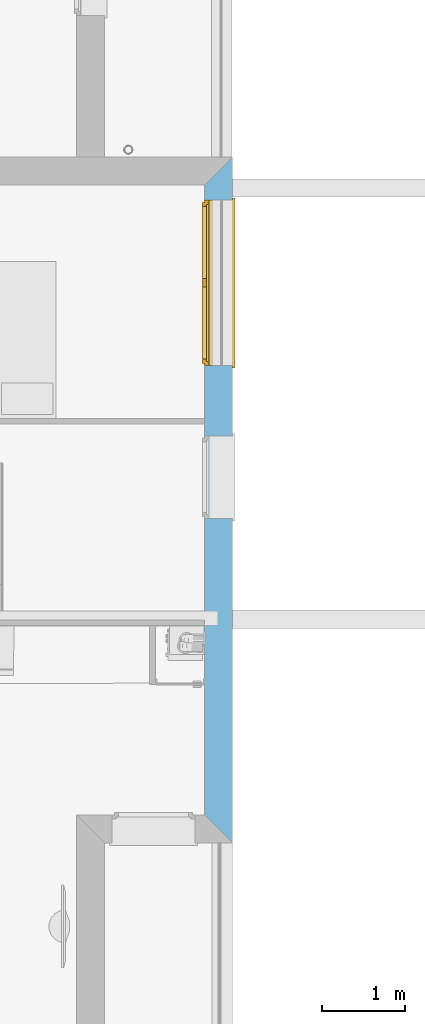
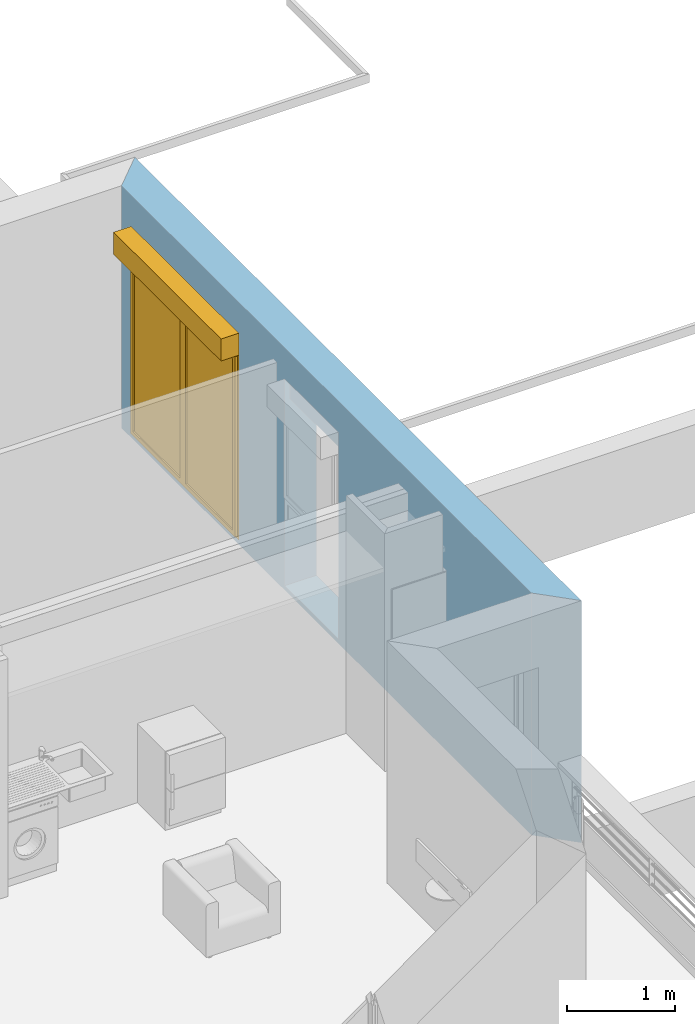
# One storey, part 41 of 171: 1 window, 2 openings, plus 1 element that does not belong to this part.
"""IFC2X3 building model written with IfcOpenShell, lengths in millimetres."""

from ifc_helpers import new_model, entity, si_unit, converted_unit, derived_unit, money_unit, direction, frame, origin_with_axes, place, context, subcontext, project, spatial, polyline, outline, extrude, open_shell, faceted_brep, surface_model, source, transform, mapped, material, layer, layer_set, layer_usage, type_object, element, fill, save


model = new_model("IFC2X3")

# Units and contexts
model_context = context("Model", 3, precision=0.01, world=origin_with_axes(), true_north=direction((0.0, 1.0)))
body_context = subcontext(model_context, "Body", "Model", "MODEL_VIEW")
ifc_project = project(units=[si_unit("LENGTHUNIT", "METRE", prefix="MILLI"), si_unit("AREAUNIT", "SQUARE_METRE"), si_unit("VOLUMEUNIT", "CUBIC_METRE"), converted_unit("PLANEANGLEUNIT", "DEGREE", entity("IfcPlaneAngleMeasure", 0.0174532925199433), si_unit("PLANEANGLEUNIT", "RADIAN"), dimensions=[0, 0, 0, 0, 0, 0, 0]), money_unit("USD"), converted_unit("TIMEUNIT", "Year", entity("IfcTimeMeasure", 31557600.0), si_unit("TIMEUNIT", "SECOND"), dimensions=[0, 0, 1, 0, 0, 0, 0]), si_unit("MASSUNIT", "GRAM", prefix="KILO"), si_unit("THERMODYNAMICTEMPERATUREUNIT", "DEGREE_CELSIUS"), si_unit("LUMINOUSINTENSITYUNIT", "LUMEN"), si_unit("ENERGYUNIT", "JOULE", prefix="MEGA"), derived_unit("THERMALCONDUCTANCEUNIT", [(si_unit("POWERUNIT", "WATT"), 1), (si_unit("LENGTHUNIT", "METRE"), -1), (si_unit("THERMODYNAMICTEMPERATUREUNIT", "KELVIN"), -1)]), derived_unit("SPECIFICHEATCAPACITYUNIT", [(si_unit("ENERGYUNIT", "JOULE"), 1), (si_unit("MASSUNIT", "GRAM", prefix="KILO"), -1), (si_unit("THERMODYNAMICTEMPERATUREUNIT", "KELVIN"), -1)]), derived_unit("MASSDENSITYUNIT", [(si_unit("MASSUNIT", "GRAM", prefix="KILO"), 1), (si_unit("VOLUMEUNIT", "CUBIC_METRE"), -1)])], contexts=[model_context])

# Site, building, storey
site_placement = place(None, origin_with_axes())
site = spatial("IfcSite", under=ifc_project, at=site_placement, Name="Site", CompositionType="ELEMENT")
building_placement = place(site_placement, origin_with_axes())
building = spatial("IfcBuilding", under=site, at=building_placement, Name="Bâtiment", CompositionType="ELEMENT")
storey_placement = place(building_placement, frame((0.0, 0.0, 3000.0), z_axis=(0.0, 0.0, 1.0), x_axis=(1.0, 0.0, 0.0)))
storey = spatial("IfcBuildingStorey", under=building, at=storey_placement, Name="rdc", CompositionType="ELEMENT", Elevation=3000.0)

# Wall, openings, window
ifc_material_1 = material(Name="Parpaing 312445824")
ifc_layer_1 = layer(ifc_material_1, 180.0, ventilated="UNKNOWN")
ifc_material_2 = material(Name="Isolant styromousse 301821074")
ifc_layer_2 = layer(ifc_material_2, 160.0, ventilated="UNKNOWN")
ifc_layer_set = layer_set([ifc_layer_1, ifc_layer_2], Name="isol int 18+16 0018356637")
ifc_layer_usage = layer_usage(ifc_layer_set, "AXIS2", "POSITIVE", 0.0)
wall_type = type_object("IfcWallType", Name="isol int 18+16 0018356637 340", PredefinedType="NOTDEFINED")
wall_placement = place(storey_placement, frame((2234356.673459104, -655041.4677782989, 0.0), z_axis=(0.0, 0.0, 1.0), x_axis=(-5.666330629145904e-06, 0.9999999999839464, 0.0)))
wall = element("IfcWallStandardCase", 1, at=wall_placement, inside=storey, type_object=wall_type, material=ifc_layer_usage, Name="Mur-144", context=body_context, shape_type="SweptSolid", body=[
    extrude(outline(polyline([(0.0, 0.0), (8303.026472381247, 0.0), (7963.028399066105, 340.0000000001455), (340.0019265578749, 340.0000000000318), (0.0, 0.0)])), origin_with_axes(), (0.0, 0.0, 1.0), 2750.0),
])
opening_1_placement = place(wall_placement, frame((6781.330882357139, 1.13686837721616e-10, 49.99999999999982), z_axis=(0.0, 0.0, 1.0), x_axis=(1.0, 0.0, 0.0)))
opening_1 = element("IfcOpeningElement", 2, at=opening_1_placement, cuts=wall, Name="Fen-207", context=body_context, shape_type="Brep", body=[
    faceted_brep([(1000.0, 280.0000000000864, 2100.0), (-999.9999999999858, 280.0000000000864, 2100.0), (-999.9999999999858, -1.047047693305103, 2100.0), (999.9999999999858, -1.047047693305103, 2100.0), (1000.0, 280.0000000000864, 2350.0), (-999.9999999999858, 280.0000000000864, 2350.0), (-1000.0, 290.0000000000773, 2100.0), (-999.9999999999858, 290.0000000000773, 0.0), (-999.9999999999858, -1.047047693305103, 0.0), (999.9999999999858, -1.047047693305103, 0.0), (1000.0, 289.9999999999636, 2100.0), (1000.0, 289.9999999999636, 0.0), (1000.0, 341.0470476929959, 2100.0), (1000.0, 529.9999999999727, 2100.0), (1000.0, 529.9999999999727, 2350.0), (-1000.0, 529.9999999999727, 2350.0), (-1000.0, 529.9999999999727, 2100.0), (-999.9999999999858, 341.0470476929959, 2100.0), (-999.9999999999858, 341.0470476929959, 0.0), (999.9999999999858, 341.0470476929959, 0.0)], [[[0, 1, 2, 3]], [[1, 0, 4, 5]], [[1, 6, 7, 8, 2]], [[2, 8, 9, 3]], [[10, 0, 3, 9, 11]], [[0, 10, 12, 13, 14, 4]], [[4, 14, 15, 5]], [[6, 1, 5, 15, 16, 17]], [[6, 17, 18, 7]], [[11, 9, 8, 7, 18, 19]], [[12, 10, 11, 19]], [[12, 17, 16, 13]], [[14, 13, 16, 15]], [[17, 12, 19, 18]]]),
])
opening_2_placement = place(wall_placement, frame((4427.837846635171, 1.13686837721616e-10, 49.99999999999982), z_axis=(0.0, 0.0, 1.0), x_axis=(1.0, 0.0, 0.0)))
element("IfcOpeningElement", 3, at=opening_2_placement, cuts=wall, Name="Fen-133", context=body_context, shape_type="Brep", body=[
    faceted_brep([(499.9999999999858, 290.0000000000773, 2100.0), (499.9999999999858, 279.9999999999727, 2100.0), (499.9999999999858, -1.047047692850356, 2100.0), (499.9999999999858, -1.047047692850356, 0.0), (500.0, 290.0000000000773, 0.0), (499.9999999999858, 341.0470476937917, 2100.0), (499.9999999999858, 529.9999999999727, 2100.0), (499.9999999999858, 529.9999999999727, 2350.0), (499.9999999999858, 279.9999999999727, 2350.0), (-500.0, 279.9999999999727, 2100.0), (-500.0, -1.047047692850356, 2100.0), (-500.0, -1.047047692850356, 0.0), (-499.9999999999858, 289.9999999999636, 0.0), (-500.0, 341.0470476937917, 0.0), (499.9999999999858, 341.0470476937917, 0.0), (-500.0, 341.0470476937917, 2100.0), (-500.0000000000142, 529.9999999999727, 2100.0), (-500.0000000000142, 529.9999999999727, 2350.0), (-500.0, 279.9999999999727, 2350.0), (-500.0, 289.9999999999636, 2100.0)], [[[0, 1, 2, 3, 4]], [[1, 0, 5, 6, 7, 8]], [[1, 9, 10, 2]], [[10, 11, 3, 2]], [[4, 3, 11, 12, 13, 14]], [[5, 0, 4, 14]], [[5, 15, 16, 6]], [[7, 6, 16, 17]], [[8, 7, 17, 18]], [[9, 1, 8, 18]], [[9, 19, 12, 11, 10]], [[19, 15, 13, 12]], [[15, 5, 14, 13]], [[19, 9, 18, 17, 16, 15]]]),
])
window_style = type_object("IfcWindowStyle", Name="Fenêtre châssis double variable 27", ConstructionType="NOTDEFINED", OperationType="DOUBLE_PANEL_VERTICAL", ParameterTakesPrecedence=False, Sizeable=False)
shared_shape = source(origin_with_axes(), body_context, "Body", "SurfaceModel", [
    surface_model("IfcShellBasedSurfaceModel", [(1000.0, -51.00000000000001, 40.00000000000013), (1000.0, -51.00000000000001, 50.00000000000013), (-1000.0, -51.00000000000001, 50.0), (-1000.0, -51.00000000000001, 40.0), (1030.0, -369.9999999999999, 28.96551724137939), (1030.0, -339.9999999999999, 30.00324289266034), (1000.0, -339.9999999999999, 30.00324289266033), (-1000.0, -339.9999999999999, 30.00324289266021), (-1030.0, -339.9999999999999, 30.00324289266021), (-1030.0, -369.9999999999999, 28.96551724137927), (1030.0, -369.9999999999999, 8.965517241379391), (-1030.0, -369.9999999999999, 8.965517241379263), (1030.0, -359.9999999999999, 18.96551724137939), (-1030.0, -359.9999999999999, 18.96551724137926)], [open_shell([[[0, 1, 2, 3]], [[4, 5, 6, 0, 3, 7, 8, 9]], [[10, 4, 9, 11]], [[12, 10, 11, 13]]])]),
    faceted_brep([(-1000.0, -60.00000000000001, 2350.0), (-997.0, -60.00000000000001, 2350.0), (-997.0, 190.0, 2350.0), (-1000.0, 190.0, 2350.0), (-1000.0, -60.00000000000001, 2100.0), (-997.0, -60.00000000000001, 2100.0), (-997.0, 190.0, 2100.0), (-1000.0, 190.0, 2100.0)], [[[0, 1, 2, 3]], [[4, 5, 1, 0]], [[1, 5, 6, 2]], [[3, 2, 6, 7]], [[0, 3, 7, 4]], [[7, 6, 5, 4]]]),
    faceted_brep([(997.0000000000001, -59.99999999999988, 2350.0), (1000.0, -59.99999999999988, 2350.0), (1000.0, 190.0000000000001, 2350.0), (997.0000000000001, 190.0000000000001, 2350.0), (997.0000000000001, -59.99999999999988, 2100.0), (1000.0, -59.99999999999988, 2100.0), (1000.0, 190.0000000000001, 2100.0), (997.0000000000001, 190.0000000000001, 2100.0)], [[[0, 1, 2, 3]], [[4, 5, 1, 0]], [[1, 5, 6, 2]], [[3, 2, 6, 7]], [[0, 3, 7, 4]], [[7, 6, 5, 4]]]),
    faceted_brep([(-997.0, -60.0, 2100.0), (997.0, -59.99999999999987, 2100.0), (997.0, -59.99999999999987, 2350.0), (-997.0, -60.0, 2350.0), (-997.0, -56.99999999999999, 2100.0), (997.0, -56.99999999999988, 2100.0), (997.0, -56.99999999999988, 2347.0), (997.0, 187.0000000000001, 2347.0), (997.0, 187.0000000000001, 2103.0), (997.0, -37.99999999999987, 2103.0), (997.0, -37.99999999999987, 2100.0), (997.0, 190.0000000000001, 2100.0), (997.0, 190.0000000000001, 2350.0), (-997.0, 190.0, 2350.0), (-997.0, 190.0, 2100.0), (-997.0, -37.99999999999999, 2100.0), (-997.0, -37.99999999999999, 2103.0), (-997.0, 187.0, 2103.0), (-997.0, 187.0, 2347.0), (-997.0, -56.99999999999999, 2347.0)], [[[0, 1, 2, 3]], [[4, 5, 1, 0]], [[1, 5, 6, 7, 8, 9, 10, 11, 12, 2]], [[3, 2, 12, 13]], [[0, 3, 13, 14, 15, 16, 17, 18, 19, 4]], [[19, 6, 5, 4]], [[18, 7, 6, 19]], [[17, 8, 7, 18]], [[16, 9, 8, 17]], [[15, 10, 9, 16]], [[14, 11, 10, 15]], [[13, 12, 11, 14]]]),
    faceted_brep([(-994.0, -40.37442957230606, 2206.419644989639), (-994.0, -41.99999999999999, 2225.0), (-994.0, -40.37442957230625, 2243.580355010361), (-994.0, -35.54711042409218, 2261.596155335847), (-994.0, -27.66471820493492, 2278.5), (-994.0, -16.96675541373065, 2293.77827423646), (-994.0, -3.778274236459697, 2306.966755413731), (-994.0, 11.5, 2317.664718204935), (-994.0, 28.40384466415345, 2325.547110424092), (-994.0, 46.41964498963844, 2330.374429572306), (-994.0, 64.99999999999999, 2332.0), (-994.0, 83.58035501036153, 2330.374429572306), (-994.0, 101.5961553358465, 2325.547110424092), (-994.0, 118.5, 2317.664718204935), (-994.0, 133.7782742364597, 2306.966755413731), (-994.0, 146.9667554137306, 2293.77827423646), (-994.0, 157.6647182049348, 2278.5), (-994.0, 165.5471104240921, 2261.596155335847), (-994.0, 170.3744295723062, 2243.580355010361), (-994.0, 171.9999999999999, 2225.0), (-994.0, 170.3744295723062, 2206.419644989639), (-994.0, 165.5471104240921, 2188.403844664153), (-994.0, 157.6647182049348, 2171.5), (-994.0, 146.9667554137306, 2156.22172576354), (-994.0, 133.7782742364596, 2143.03324458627), (-994.0, 118.4999999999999, 2132.335281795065), (-994.0, 101.5961553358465, 2124.452889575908), (-994.0, 83.58035501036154, 2119.625570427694), (-994.0, 65.00000000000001, 2118.0), (-994.0, 46.4196449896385, 2119.625570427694), (-994.0, 28.40384466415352, 2124.452889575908), (-994.0, 11.50000000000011, 2132.335281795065), (-994.0, -3.778274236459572, 2143.03324458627), (-994.0, -16.9667554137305, 2156.22172576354), (-994.0, -27.66471820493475, 2171.5), (-994.0, -35.54711042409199, 2188.403844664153), (994.0, -40.37442957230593, 2206.419644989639), (994.0, -41.99999999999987, 2225.0), (994.0, -40.37442957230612, 2243.580355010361), (994.0, -35.54711042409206, 2261.596155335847), (994.0, -27.6647182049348, 2278.5), (994.0, -16.96675541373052, 2293.77827423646), (994.0, -3.778274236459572, 2306.966755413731), (994.0, 11.50000000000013, 2317.664718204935), (994.0, 28.40384466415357, 2325.547110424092), (994.0, 46.41964498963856, 2330.374429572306), (994.0, 65.00000000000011, 2332.0), (994.0, 83.58035501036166, 2330.374429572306), (994.0, 101.5961553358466, 2325.547110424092), (994.0, 118.5000000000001, 2317.664718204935), (994.0, 133.7782742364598, 2306.966755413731), (994.0, 146.9667554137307, 2293.77827423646), (994.0, 157.664718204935, 2278.5), (994.0, 165.5471104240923, 2261.596155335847), (994.0, 170.3744295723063, 2243.580355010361), (994.0, 172.0, 2225.0), (994.0, 170.3744295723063, 2206.419644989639), (994.0, 165.5471104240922, 2188.403844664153), (994.0, 157.6647182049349, 2171.5), (994.0, 146.9667554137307, 2156.22172576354), (994.0, 133.7782742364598, 2143.03324458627), (994.0, 118.5000000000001, 2132.335281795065), (994.0, 101.5961553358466, 2124.452889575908), (994.0, 83.58035501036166, 2119.625570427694), (994.0, 65.00000000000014, 2118.0), (994.0, 46.41964498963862, 2119.625570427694), (994.0, 28.40384466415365, 2124.452889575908), (994.0, 11.50000000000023, 2132.335281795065), (994.0, -3.778274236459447, 2143.03324458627), (994.0, -16.96675541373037, 2156.22172576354), (994.0, -27.66471820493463, 2171.5), (994.0, -35.54711042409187, 2188.403844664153)], [[[0, 1, 2, 3, 4, 5, 6, 7, 8, 9, 10, 11, 12, 13, 14, 15, 16, 17, 18, 19, 20, 21, 22, 23, 24, 25, 26, 27, 28, 29, 30, 31, 32, 33, 34, 35]], [[0, 36, 37, 1]], [[1, 37, 38, 2]], [[2, 38, 39, 3]], [[3, 39, 40, 4]], [[4, 40, 41, 5]], [[5, 41, 42, 6]], [[6, 42, 43, 7]], [[7, 43, 44, 8]], [[8, 44, 45, 9]], [[9, 45, 46, 10]], [[10, 46, 47, 11]], [[11, 47, 48, 12]], [[12, 48, 49, 13]], [[13, 49, 50, 14]], [[14, 50, 51, 15]], [[15, 51, 52, 16]], [[16, 52, 53, 17]], [[17, 53, 54, 18]], [[18, 54, 55, 19]], [[19, 55, 56, 20]], [[20, 56, 57, 21]], [[21, 57, 58, 22]], [[22, 58, 59, 23]], [[23, 59, 60, 24]], [[24, 60, 61, 25]], [[25, 61, 62, 26]], [[26, 62, 63, 27]], [[27, 63, 64, 28]], [[28, 64, 65, 29]], [[29, 65, 66, 30]], [[30, 66, 67, 31]], [[31, 67, 68, 32]], [[32, 68, 69, 33]], [[33, 69, 70, 34]], [[34, 70, 71, 35]], [[35, 71, 36, 0]], [[36, 71, 70, 69, 68, 67, 66, 65, 64, 63, 62, 61, 60, 59, 58, 57, 56, 55, 54, 53, 52, 51, 50, 49, 48, 47, 46, 45, 44, 43, 42, 41, 40, 39, 38, 37]]]),
    faceted_brep([(1000.0, -34.99999999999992, 30.0), (1000.0, -34.99999999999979, 2100.0), (1000.0, -59.99999999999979, 2100.0), (1000.0, -59.99999999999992, 30.0), (975.0, -34.99999999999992, 30.0), (975.0, -34.99999999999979, 2100.0), (975.0, -37.99999999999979, 2100.0), (997.0, -37.99999999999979, 2100.0), (997.0, -56.99999999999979, 2100.0), (975.0, -56.99999999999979, 2100.0), (975.0, -59.99999999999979, 2100.0), (975.0, -59.99999999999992, 30.0), (975.0, -56.99999999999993, 30.0), (997.0, -56.99999999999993, 30.0), (997.0, -37.99999999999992, 30.0), (975.0, -37.99999999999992, 30.0)], [[[0, 1, 2, 3]], [[4, 5, 1, 0]], [[1, 5, 6, 7, 8, 9, 10, 2]], [[3, 2, 10, 11]], [[0, 3, 11, 12, 13, 14, 15, 4]], [[15, 6, 5, 4]], [[14, 7, 6, 15]], [[13, 8, 7, 14]], [[12, 9, 8, 13]], [[11, 10, 9, 12]]]),
    faceted_brep([(-1000.0, -34.99999999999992, 30.0), (-1000.0, -59.99999999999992, 30.0), (-1000.0, -59.99999999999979, 2100.0), (-1000.0, -34.99999999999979, 2100.0), (-975.0, -34.99999999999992, 30.0), (-975.0, -37.99999999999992, 30.0), (-997.0, -37.99999999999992, 30.0), (-997.0, -56.99999999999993, 30.0), (-975.0, -56.99999999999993, 30.0), (-975.0, -59.99999999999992, 30.0), (-975.0, -59.99999999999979, 2100.0), (-975.0, -56.99999999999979, 2100.0), (-997.0, -56.99999999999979, 2100.0), (-997.0, -37.99999999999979, 2100.0), (-975.0, -37.99999999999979, 2100.0), (-975.0, -34.99999999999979, 2100.0)], [[[0, 1, 2, 3]], [[0, 4, 5, 6, 7, 8, 9, 1]], [[1, 9, 10, 2]], [[3, 2, 10, 11, 12, 13, 14, 15]], [[4, 0, 3, 15]], [[5, 4, 15, 14]], [[6, 5, 14, 13]], [[7, 6, 13, 12]], [[8, 7, 12, 11]], [[9, 8, 11, 10]]]),
    faceted_brep([(997.0, -46.66666666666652, 2225.0), (997.0, -46.66666666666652, 2216.666666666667), (-997.0, -46.66666666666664, 2216.666666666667), (-997.0, -46.66666666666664, 2225.0), (997.0, -51.66666666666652, 2225.0), (997.0, -51.66666666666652, 2216.666666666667), (997.0, -49.99999999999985, 2200.0), (997.0, -44.99999999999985, 2200.0), (-997.0, -44.99999999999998, 2200.0), (-997.0, -49.99999999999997, 2200.0), (-997.0, -51.66666666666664, 2216.666666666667), (-997.0, -51.66666666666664, 2225.0)], [[[0, 1, 2, 3]], [[4, 5, 6, 7, 1, 0]], [[2, 1, 7, 8]], [[3, 2, 8, 9, 10, 11]], [[3, 11, 4, 0]], [[10, 5, 4, 11]], [[9, 6, 5, 10]], [[8, 7, 6, 9]]]),
    faceted_brep([(-997.0, -44.99999999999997, 2200.0), (997.0, -44.99999999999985, 2200.0), (997.0, -46.66666666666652, 2183.333333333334), (-997.0, -46.66666666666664, 2183.333333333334), (-997.0, -49.99999999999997, 2200.0), (997.0, -49.99999999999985, 2200.0), (997.0, -51.66666666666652, 2183.333333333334), (997.0, -51.66666666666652, 2166.666666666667), (997.0, -49.99999999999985, 2150.000000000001), (997.0, -44.99999999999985, 2150.000000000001), (997.0, -46.66666666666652, 2166.666666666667), (-997.0, -46.66666666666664, 2166.666666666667), (-997.0, -44.99999999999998, 2150.000000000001), (-997.0, -49.99999999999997, 2150.000000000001), (-997.0, -51.66666666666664, 2166.666666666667), (-997.0, -51.66666666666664, 2183.333333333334)], [[[0, 1, 2, 3]], [[4, 5, 1, 0]], [[1, 5, 6, 7, 8, 9, 10, 2]], [[3, 2, 10, 11]], [[0, 3, 11, 12, 13, 14, 15, 4]], [[15, 6, 5, 4]], [[14, 7, 6, 15]], [[13, 8, 7, 14]], [[12, 9, 8, 13]], [[11, 10, 9, 12]]]),
    faceted_brep([(-997.0, -44.99999999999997, 2150.000000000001), (997.0, -44.99999999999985, 2150.000000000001), (997.0, -46.66666666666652, 2133.333333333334), (-997.0, -46.66666666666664, 2133.333333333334), (-997.0, -49.99999999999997, 2150.000000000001), (997.0, -49.99999999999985, 2150.000000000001), (997.0, -51.66666666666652, 2133.333333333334), (997.0, -51.66666666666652, 2116.666666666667), (997.0, -49.99999999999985, 2100.000000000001), (997.0, -44.99999999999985, 2100.000000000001), (997.0, -46.66666666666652, 2116.666666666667), (-997.0, -46.66666666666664, 2116.666666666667), (-997.0, -44.99999999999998, 2100.000000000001), (-997.0, -49.99999999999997, 2100.000000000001), (-997.0, -51.66666666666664, 2116.666666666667), (-997.0, -51.66666666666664, 2133.333333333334)], [[[0, 1, 2, 3]], [[4, 5, 1, 0]], [[1, 5, 6, 7, 8, 9, 10, 2]], [[3, 2, 10, 11]], [[0, 3, 11, 12, 13, 14, 15, 4]], [[15, 6, 5, 4]], [[14, 7, 6, 15]], [[13, 8, 7, 14]], [[12, 9, 8, 13]], [[11, 10, 9, 12]]]),
    faceted_brep([(-975.0, 0.0, 2050.0), (-1000.0, 0.0, 2050.0), (-1000.0, -50.00000000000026, 2050.0), (-950.0, -50.00000000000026, 2050.0), (-950.0, -25.00000000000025, 2050.0), (-975.0, -25.00000000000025, 2050.0), (-975.0, 0.0, 50.00000000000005), (-1000.0, 0.0, 50.00000000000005), (-1000.0, -50.00000000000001, 50.00000000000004), (-950.0, -50.00000000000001, 50.00000000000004), (-950.0, -25.00000000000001, 50.00000000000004), (-975.0, -25.00000000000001, 50.00000000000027)], [[[0, 1, 2, 3, 4, 5]], [[6, 7, 1, 0]], [[1, 7, 8, 2]], [[2, 8, 9, 3]], [[4, 3, 9, 10]], [[10, 11, 5, 4]], [[5, 11, 6, 0]], [[11, 10, 9, 8, 7, 6]]]),
    faceted_brep([(950.0, -25.00000000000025, 2050.0), (950.0, -50.00000000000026, 2050.0), (1000.0, -50.00000000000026, 2050.0), (1000.0, 0.0, 2050.0), (975.0, 0.0, 2050.0), (975.0, -25.00000000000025, 2050.0), (950.0, -25.00000000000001, 50.00000000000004), (950.0, -50.00000000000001, 50.00000000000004), (1000.0, -50.00000000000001, 50.00000000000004), (1000.0, 0.0, 50.00000000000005), (975.0, 0.0, 50.00000000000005), (975.0, -25.00000000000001, 50.00000000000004)], [[[0, 1, 2, 3, 4, 5]], [[6, 7, 1, 0]], [[8, 2, 1, 7]], [[9, 3, 2, 8]], [[4, 3, 9, 10]], [[10, 11, 5, 4]], [[5, 11, 6, 0]], [[11, 10, 9, 8, 7, 6]]]),
    faceted_brep([(950.0, -25.00000000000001, 50.00000000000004), (950.0, -50.00000000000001, 50.00000000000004), (1000.0, -50.00000000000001, 50.00000000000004), (1000.0, 0.0, 50.00000000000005), (975.0, 0.0, 50.00000000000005), (975.0, -25.00000000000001, 50.00000000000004), (-950.0, -25.00000000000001, 50.00000000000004), (-950.0, -50.00000000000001, 50.00000000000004), (-1000.0, -50.00000000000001, 50.00000000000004), (-1000.0, -50.0, 0.0), (1000.0, -50.0, 0.0), (1000.0, 0.0, 0.0), (-975.0, 0.0, 24.99999999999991), (975.0, 0.0, 24.99999999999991), (-1000.0, 0.0, 0.0), (-1000.0, 0.0, 50.00000000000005), (-975.0, 0.0, 50.00000000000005), (975.0, -25.0, 24.99999999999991), (-975.0, -25.0, 24.99999999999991), (-975.0, -25.00000000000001, 50.00000000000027)], [[[0, 1, 2, 3, 4, 5]], [[6, 7, 1, 0]], [[8, 9, 10, 2, 1, 7]], [[11, 3, 2, 10]], [[12, 13, 4, 3, 11, 14, 15, 16]], [[13, 17, 5, 4]], [[5, 17, 18, 19, 6, 0]], [[19, 16, 15, 8, 7, 6]], [[15, 14, 9, 8]], [[14, 11, 10, 9]], [[12, 18, 17, 13]], [[19, 18, 12, 16]]]),
    faceted_brep([(-975.0, 0.0, 2050.0), (-1000.0, 0.0, 2050.0), (-1000.0, 0.0, 2100.0), (1000.0, 0.0, 2100.0), (1000.0, 0.0, 2050.0), (975.0, 0.0, 2050.0), (975.0, 0.0, 2075.0), (-975.0, 0.0, 2075.0), (-975.0, -25.00000000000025, 2050.0), (-950.0, -25.00000000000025, 2050.0), (-950.0, -50.00000000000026, 2050.0), (-1000.0, -50.00000000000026, 2050.0), (-1000.0, -50.00000000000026, 2100.0), (1000.0, -50.00000000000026, 2100.0), (1000.0, -50.00000000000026, 2050.0), (975.0, -25.00000000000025, 2050.0), (950.0, -50.00000000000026, 2050.0), (950.0, -25.00000000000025, 2050.0), (975.0, -25.00000000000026, 2075.0), (-975.0, -25.00000000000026, 2075.0)], [[[0, 1, 2, 3, 4, 5, 6, 7]], [[8, 9, 10, 11, 1, 0]], [[2, 1, 11, 12]], [[3, 2, 12, 13]], [[4, 3, 13, 14]], [[15, 5, 4, 14, 16, 17]], [[5, 15, 18, 6]], [[6, 18, 19, 7]], [[7, 19, 8, 0]], [[17, 9, 8, 19, 18, 15]], [[17, 16, 10, 9]], [[14, 13, 12, 11, 10, 16]]]),
    faceted_brep([(-925.0, -25.00000000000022, 2025.0), (-925.0, 24.99999999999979, 2025.0), (-975.0, 24.99999999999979, 2025.0), (-975.0, -25.00000000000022, 2025.0), (-925.0, -24.99999999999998, 75.00000000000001), (-925.0, 25.00000000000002, 75.00000000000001), (-975.0, 25.00000000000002, 75.00000000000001), (-975.0, -24.99999999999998, 75.00000000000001)], [[[0, 1, 2, 3]], [[4, 5, 1, 0]], [[1, 5, 6, 2]], [[3, 2, 6, 7]], [[0, 3, 7, 4]], [[7, 6, 5, 4]]]),
    faceted_brep([(-49.99999999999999, -25.00000000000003, 75.00000000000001), (-49.99999999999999, 24.99999999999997, 75.00000000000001), (0.0, 24.99999999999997, 75.00000000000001), (0.0, -25.00000000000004, 75.00000000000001), (-49.99999999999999, -25.00000000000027, 2025.0), (-49.99999999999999, 24.99999999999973, 2025.0), (0.0, 24.99999999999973, 2025.0), (0.0, -25.00000000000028, 2025.0)], [[[0, 1, 2, 3]], [[4, 5, 1, 0]], [[1, 5, 6, 2]], [[3, 2, 6, 7]], [[0, 3, 7, 4]], [[7, 6, 5, 4]]]),
    faceted_brep([(0.0, -25.00000000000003, 25.0), (0.0, 24.99999999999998, 25.00000000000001), (0.0, 24.99999999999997, 75.00000000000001), (0.0, -25.00000000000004, 75.00000000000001), (-975.0, -24.99999999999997, 25.0), (-975.0, 25.00000000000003, 25.00000000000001), (-975.0, 25.00000000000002, 75.00000000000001), (-925.0, 25.00000000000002, 75.00000000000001), (-49.99999999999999, 24.99999999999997, 75.00000000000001), (-49.99999999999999, -25.00000000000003, 75.00000000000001), (-925.0, -24.99999999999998, 75.00000000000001), (-975.0, -24.99999999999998, 75.00000000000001)], [[[0, 1, 2, 3]], [[4, 5, 1, 0]], [[1, 5, 6, 7, 8, 2]], [[3, 2, 8, 9]], [[0, 3, 9, 10, 11, 4]], [[11, 6, 5, 4]], [[10, 7, 6, 11]], [[9, 8, 7, 10]]]),
    faceted_brep([(-975.0, -25.00000000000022, 2075.0), (-975.0, 24.99999999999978, 2075.0), (-975.0, 24.99999999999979, 2025.0), (-975.0, -25.00000000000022, 2025.0), (0.0, -25.00000000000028, 2075.0), (0.0, 24.99999999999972, 2075.0), (0.0, 24.99999999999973, 2025.0), (-49.99999999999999, 24.99999999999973, 2025.0), (-925.0, 24.99999999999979, 2025.0), (-925.0, -25.00000000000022, 2025.0), (-49.99999999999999, -25.00000000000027, 2025.0), (0.0, -25.00000000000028, 2025.0)], [[[0, 1, 2, 3]], [[4, 5, 1, 0]], [[1, 5, 6, 7, 8, 2]], [[3, 2, 8, 9]], [[0, 3, 9, 10, 11, 4]], [[11, 6, 5, 4]], [[10, 7, 6, 11]], [[9, 8, 7, 10]]]),
    surface_model("IfcShellBasedSurfaceModel", [(-925.0, -10.00000000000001, 75.00000000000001), (-49.99999999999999, -10.00000000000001, 75.00000000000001), (-49.99999999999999, -10.00000000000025, 2025.0), (-925.0, -10.00000000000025, 2025.0)], [open_shell([[[0, 1, 2, 3]]])]),
    surface_model("IfcShellBasedSurfaceModel", [(-925.0, 9.999999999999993, 75.00000000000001), (-925.0, 9.999999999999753, 2025.0), (-49.99999999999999, 9.999999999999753, 2025.0), (-49.99999999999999, 9.999999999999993, 75.00000000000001)], [open_shell([[[0, 1, 2, 3]]])]),
    faceted_brep([(49.99999999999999, -25.00000000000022, 2025.0), (49.99999999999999, 24.99999999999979, 2025.0), (0.0, 24.99999999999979, 2025.0), (0.0, -25.00000000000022, 2025.0), (49.99999999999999, -24.99999999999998, 75.00000000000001), (49.99999999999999, 25.00000000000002, 75.00000000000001), (0.0, 25.00000000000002, 75.00000000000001), (0.0, -24.99999999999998, 75.00000000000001)], [[[0, 1, 2, 3]], [[4, 5, 1, 0]], [[1, 5, 6, 2]], [[3, 2, 6, 7]], [[0, 3, 7, 4]], [[7, 6, 5, 4]]]),
    faceted_brep([(925.0, -25.00000000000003, 75.00000000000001), (925.0, 24.99999999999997, 75.00000000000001), (975.0, 24.99999999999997, 75.00000000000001), (975.0, -25.00000000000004, 75.00000000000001), (925.0, -25.00000000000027, 2025.0), (925.0, 24.99999999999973, 2025.0), (975.0, 24.99999999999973, 2025.0), (975.0, -25.00000000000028, 2025.0)], [[[0, 1, 2, 3]], [[4, 5, 1, 0]], [[1, 5, 6, 2]], [[3, 2, 6, 7]], [[0, 3, 7, 4]], [[7, 6, 5, 4]]]),
    faceted_brep([(975.0, -25.00000000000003, 25.0), (975.0, 24.99999999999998, 25.00000000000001), (975.0, 24.99999999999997, 75.00000000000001), (975.0, -25.00000000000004, 75.00000000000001), (0.0, -24.99999999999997, 25.0), (0.0, 25.00000000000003, 25.00000000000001), (0.0, 25.00000000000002, 75.00000000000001), (49.99999999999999, 25.00000000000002, 75.00000000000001), (925.0, 24.99999999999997, 75.00000000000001), (925.0, -25.00000000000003, 75.00000000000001), (49.99999999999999, -24.99999999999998, 75.00000000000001), (0.0, -24.99999999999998, 75.00000000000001)], [[[0, 1, 2, 3]], [[4, 5, 1, 0]], [[1, 5, 6, 7, 8, 2]], [[3, 2, 8, 9]], [[0, 3, 9, 10, 11, 4]], [[11, 6, 5, 4]], [[10, 7, 6, 11]], [[9, 8, 7, 10]]]),
    faceted_brep([(0.0, -25.00000000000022, 2075.0), (0.0, 24.99999999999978, 2075.0), (0.0, 24.99999999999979, 2025.0), (0.0, -25.00000000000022, 2025.0), (975.0, -25.00000000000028, 2075.0), (975.0, 24.99999999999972, 2075.0), (975.0, 24.99999999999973, 2025.0), (925.0, 24.99999999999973, 2025.0), (49.99999999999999, 24.99999999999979, 2025.0), (49.99999999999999, -25.00000000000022, 2025.0), (925.0, -25.00000000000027, 2025.0), (975.0, -25.00000000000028, 2025.0)], [[[0, 1, 2, 3]], [[4, 5, 1, 0]], [[1, 5, 6, 7, 8, 2]], [[3, 2, 8, 9]], [[0, 3, 9, 10, 11, 4]], [[11, 6, 5, 4]], [[10, 7, 6, 11]], [[9, 8, 7, 10]]]),
    surface_model("IfcShellBasedSurfaceModel", [(49.99999999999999, -10.00000000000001, 75.00000000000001), (925.0, -10.00000000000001, 75.00000000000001), (925.0, -10.00000000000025, 2025.0), (49.99999999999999, -10.00000000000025, 2025.0)], [open_shell([[[0, 1, 2, 3]]])]),
    surface_model("IfcShellBasedSurfaceModel", [(49.99999999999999, 9.999999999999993, 75.00000000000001), (49.99999999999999, 9.999999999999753, 2025.0), (925.0, 9.999999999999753, 2025.0), (925.0, 9.999999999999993, 75.00000000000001)], [open_shell([[[0, 1, 2, 3]]])]),
])
window_placement = place(opening_1_placement, frame((-1000.000000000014, -1.13686837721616e-10, 0.0), z_axis=(0.0, 0.0, 1.0), x_axis=(1.0, 0.0, 0.0)))
window = element("IfcWindow", 4, at=window_placement, inside=storey, type_object=window_style, Name="Fen-207", OverallHeight=2100.0, OverallWidth=2000.0, context=body_context, shape_type="MappedRepresentation", body=[
    mapped(shared_shape, transform((999.9999999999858, 340.0000000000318, 0.0))),
])
fill(opening_1, window)

save(model, "model.ifc")
